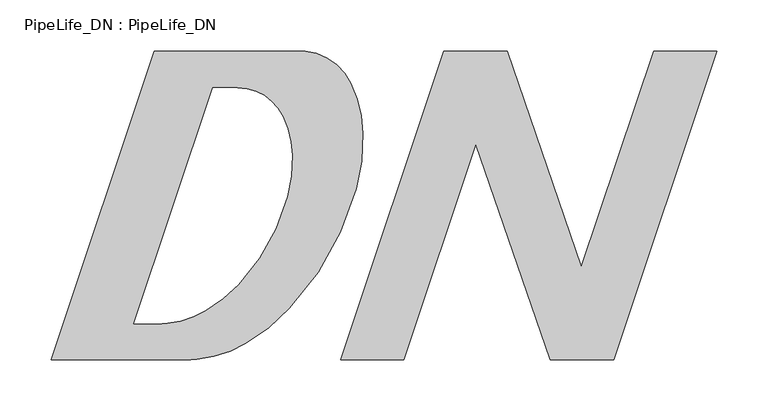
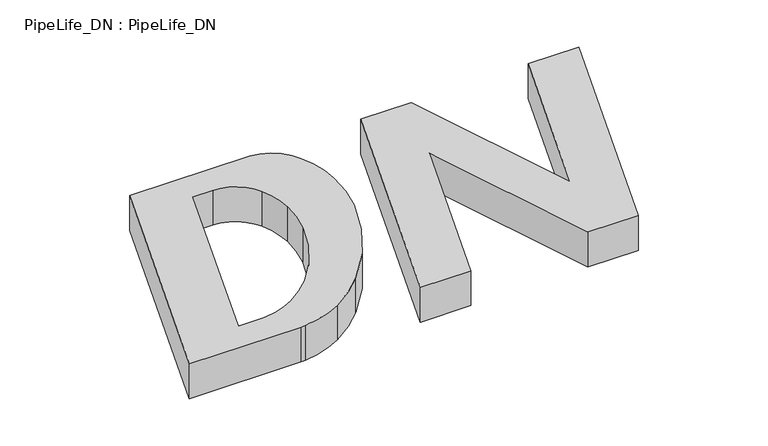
"""IFC4 building model written with IfcOpenShell, lengths in millimetres: flow terminal geometry, PipeLife_DN : PipeLife_DN."""

from ifc_helpers import new_model, si_unit, point, frame_2d, origin, origin_with_axes, place, context, project, spatial, polyline, circle_curve, trimmed, segment, composite_curve, outline, extrude, source, transform, mapped, element, save


def pipelife_dn_pipelife_dn_dacb9fbb(model_context):
    return source(origin(), model_context, "Body", "SweptSolid", [
        extrude(outline(composite_curve([segment(polyline([(-308.4152529, 0.0), (-207.5190963, 301.5468262), (-60.3225658, 301.5468262)]), True, "CONTINUOUS"), segment(trimmed(circle_curve(frame_2d((-65.9139806, 245.9830817)), 55.8443697), [point((-60.3225658, 301.5468262))], [point((-15.6856571, 270.3902351))], False, "CARTESIAN"), True, "CONTINUOUS"), segment(trimmed(circle_curve(frame_2d((-122.8895055, 218.2973005)), 119.1903475), [point((-15.6856571, 270.3902351))], [point((-3.7411244, 221.4599289))], False, "CARTESIAN"), True, "CONTINUOUS"), segment(trimmed(circle_curve(frame_2d((-190.2593262, 216.5090622)), 186.5838972), [point((-3.7411244, 221.4599289))], [point((-10.3186715, 167.1642398))], False, "CARTESIAN"), True, "CONTINUOUS"), segment(trimmed(circle_curve(frame_2d((-281.568968, 241.5487513)), 281.2646066), [point((-10.3186715, 167.1642398))], [point((-75.5597875, 50.0546354))], False, "CARTESIAN"), True, "CONTINUOUS"), segment(trimmed(circle_curve(frame_2d((-212.2211194, 177.0870369)), 186.5838972), [point((-75.5597875, 50.0546354))], [point((-118.2653998, 15.8856925))], False, "CARTESIAN"), True, "CONTINUOUS"), segment(trimmed(circle_curve(frame_2d((-178.2845925, 118.8615899)), 119.1903475), [point((-118.2653998, 15.8856925))], [point((-166.1571232, 0.289825))], False, "CARTESIAN"), True, "CONTINUOUS"), segment(trimmed(circle_curve(frame_2d((-171.8392167, 55.8443551)), 55.8443551), [point((-166.1571232, 0.289825))], [point((-171.8392167, 0.0))], False, "CARTESIAN"), True, "CONTINUOUS"), segment(polyline([(-171.8392167, 0.0), (-308.4152529, 0.0)]), True, "CONTINUOUS")], self_intersect=False), holes=[composite_curve([segment(trimmed(circle_curve(frame_2d((-166.1106551, 197.3505966)), 93.2652872), [point((-72.8782062, 199.8253225))], [point((-82.2246847, 238.1128066))], True, "CARTESIAN"), True, "CONTINUOUS"), segment(trimmed(circle_curve(frame_2d((-126.5383616, 216.5797255)), 49.2684031), [point((-82.2246847, 238.1128066))], [point((-126.5383616, 265.8481286))], True, "CARTESIAN"), True, "CONTINUOUS"), segment(polyline([(-126.5383616, 265.8481286), (-150.5305354, 265.8481286), (-227.6873649, 35.2506724), (-200.108629, 35.2506724)]), True, "CONTINUOUS"), segment(trimmed(circle_curve(frame_2d((-200.108629, 84.5190627)), 49.2683903), [point((-200.108629, 35.2506724))], [point((-195.0956317, 35.5063691))], True, "CARTESIAN"), True, "CONTINUOUS"), segment(trimmed(circle_curve(frame_2d((-204.5852584, 128.2876214)), 93.2652872), [point((-195.0956317, 35.5063691))], [point((-157.6208242, 47.7099836))], True, "CARTESIAN"), True, "CONTINUOUS"), segment(trimmed(circle_curve(frame_2d((-228.15584, 168.7280485)), 140.073411), [point((-157.6208242, 47.7099836))], [point((-125.5606042, 73.3615026))], True, "CARTESIAN"), True, "CONTINUOUS"), segment(trimmed(circle_curve(frame_2d((-276.3213202, 213.499869)), 205.8338048), [point((-125.5606042, 73.3615026))], [point((-77.8161429, 159.0641289))], True, "CARTESIAN"), True, "CONTINUOUS"), segment(trimmed(circle_curve(frame_2d((-212.902298, 196.1085774)), 140.073411), [point((-77.8161429, 159.0641289))], [point((-72.8782062, 199.8253225))], True, "CARTESIAN"), True, "CONTINUOUS")], self_intersect=False)]), origin_with_axes(), (0.0, 0.0, 1.0), 45.0),
        extrude(outline(polyline([(36.2569822, 0.0), (-25.5476353, 0.0), (75.3485213, 301.5468262), (137.1531388, 301.5468262), (209.8711372, 90.9121281), (280.3485213, 301.5468262), (342.1531388, 301.5468262), (241.2569822, 0.0), (179.4523647, 0.0), (106.7343663, 210.6346981), (36.2569822, 0.0)])), origin_with_axes(), (0.0, 0.0, 1.0), 45.0),
    ])


if __name__ == "__main__":
    model = new_model("IFC4")
    model_context = context("Model", 3, world=origin())
    ifc_project = project(units=[si_unit("LENGTHUNIT", "METRE", prefix="MILLI")], contexts=[model_context])
    site = spatial("IfcSite", under=ifc_project)
    building = spatial("IfcBuilding", under=site)
    placement = place(None, origin())
    pipelife_dn_pipelife_dn_shape = pipelife_dn_pipelife_dn_dacb9fbb(model_context)
    element("IfcFlowTerminal", 1, ObjectType="PipeLife_DN : PipeLife_DN", at=placement, inside=building, context=model_context, shape_type="MappedRepresentation", body=[
        mapped(pipelife_dn_pipelife_dn_shape, transform((0.0, 0.0, 0.0), x_axis=(1.0, 0.0, 0.0), y_axis=(0.0, 1.0, 0.0), z_axis=(0.0, 0.0, 1.0))),
    ])
    save(model, "model.ifc")
